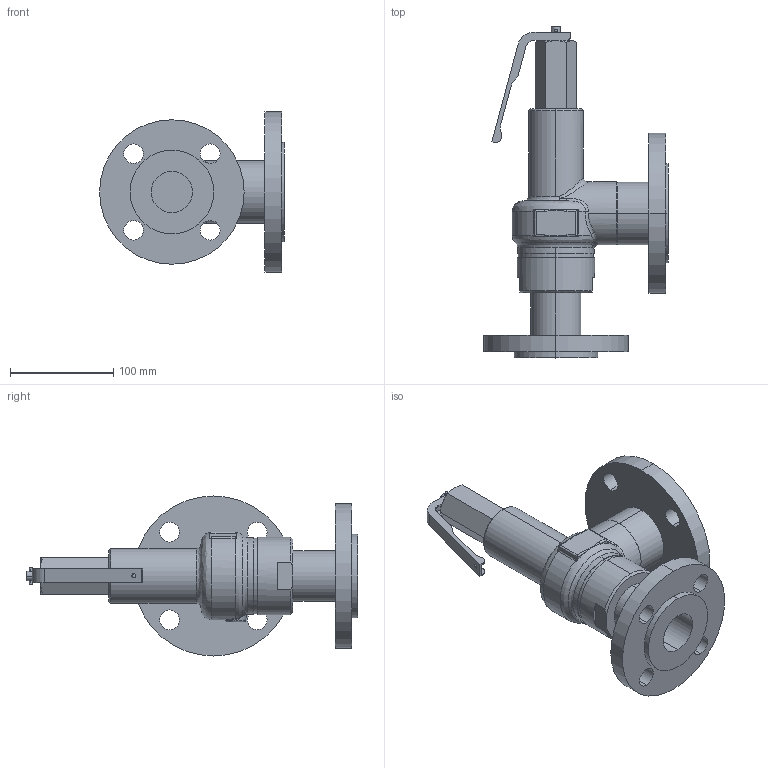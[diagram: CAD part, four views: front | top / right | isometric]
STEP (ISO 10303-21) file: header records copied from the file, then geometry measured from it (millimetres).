
FILE_DESCRIPTION( (''), '2;1');
FILE_NAME ('PC1276.5360.AL-32ML 40A_32456.stp','2025-12-05T09:10:39',(''),(''),'spGate 20.6.3 (****-****-****-****)','','');
FILE_SCHEMA (('AUTOMOTIVE_DESIGN'));
Length unit declared in the file: millimetre
Products named in the file (3): Assembly; AL-15 Lever 40-50A; AL-32ML 40A(non-lever)-3D
Assembly tree (2 placements, depth 2):
  Assembly
    AL-15 Lever 40-50A
    AL-32ML 40A(non-lever)-3D
Bounding box: 179 x 321.5 x 155 mm (x, y, z)
Volume: 1346497.3 mm3; surface area: 172813.4 mm2
Topology: 2 solids, 2 shells, 183 faces, 467 edges, 302 vertices
Faces by surface type: cylinder 78, plane 60, bspline 45
Entity records: 11514 total; most frequent: CARTESIAN_POINT 3615, ORIENTED_EDGE 934, DIRECTION 800, COLOUR_RGB 652, PRESENTATION_STYLE_ASSIGNMENT 652, STYLED_ITEM 652, EDGE_CURVE 467, DRAUGHTING_PRE_DEFINED_CURVE_FONT 467
